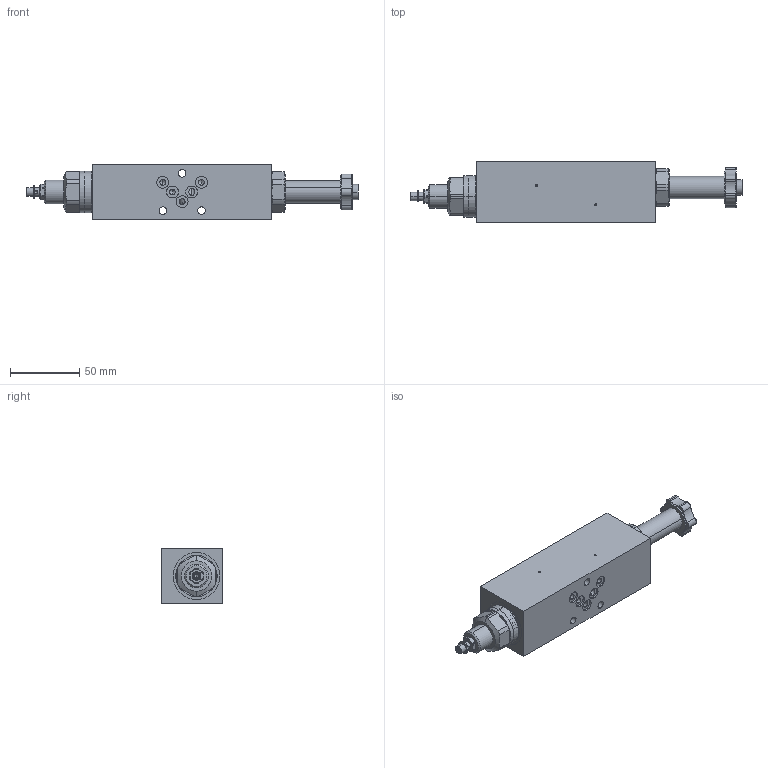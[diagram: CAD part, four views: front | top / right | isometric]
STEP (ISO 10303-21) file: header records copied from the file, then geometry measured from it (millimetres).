
FILE_DESCRIPTION (( 'STEP AP214' ), '1' );
FILE_NAME ('VQSSA04-A.STEP', '2018-08-28T13:36:22', ( '' ), ( '' ), 'SwSTEP 2.0', 'SolidWorks 2016', '' );
FILE_SCHEMA (( 'AUTOMOTIVE_DESIGN' ));
Length unit declared in the file: millimetre
Products named in the file (2): VQSSA04-A
Bounding box: 240.5 x 44.5 x 40 mm (x, y, z)
Volume: 260893.1 mm3; surface area: 40118.7 mm2
Topology: 4 solids, 4 shells, 310 faces, 759 edges, 462 vertices
Faces by surface type: cylinder 131, plane 94, cone 62, torus 23
Entity records: 12737 total; most frequent: CARTESIAN_POINT 1903, DIRECTION 1651, ORIENTED_EDGE 1462, EDGE_CURVE 731, AXIS2_PLACEMENT_3D 674, VERTEX_POINT 462, CIRCLE 362, EDGE_LOOP 355
